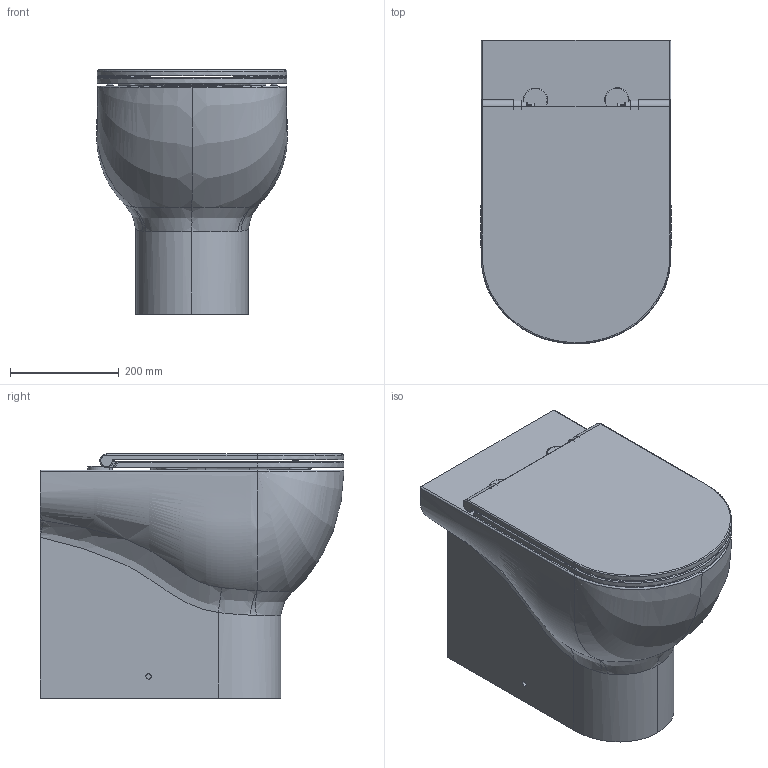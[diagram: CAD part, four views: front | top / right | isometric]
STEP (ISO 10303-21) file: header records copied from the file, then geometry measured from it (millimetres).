
FILE_DESCRIPTION (( 'STEP AP203' ), '1' );
FILE_NAME ('NUVCTP000000.STEP', '2019-07-01T10:32:35', ( '' ), ( '' ), 'SwSTEP 2.0', 'SolidWorks 2019', '' );
FILE_SCHEMA (( 'CONFIG_CONTROL_DESIGN' ));
Products named in the file (7): Parte cernieraSNODO; CPWR NUV1818_F CIAMBELLA; Parte cernieraPIASTRA; CPWR NUV1818_F COPERCHIO; NUVCTP000000; AssiemeNUV1818_F; NUV100_P
Assembly tree (8 placements, depth 3):
  NUVCTP000000
    NUV100_P
    AssiemeNUV1818_F
      CPWR NUV1818_F CIAMBELLA
      CPWR NUV1818_F COPERCHIO
      Parte cernieraSNODO  x2
      Parte cernieraPIASTRA  x2
Bounding box: 351.12 x 559.98 x 450 mm (x, y, z)
Volume: 15982553.5 mm3; surface area: 2620017.5 mm2
Topology: 7 solids, 12 shells, 691 faces, 1689 edges, 1033 vertices
Faces by surface type: bspline 224, cylinder 187, plane 154, torus 85, sphere 28, cone 13
Entity records: 268642 total; most frequent: CARTESIAN_POINT 254102, ORIENTED_EDGE 3238, DIRECTION 2394, EDGE_CURVE 1619, VERTEX_POINT 991, AXIS2_PLACEMENT_3D 970, EDGE_LOOP 690, FACE_OUTER_BOUND 659
